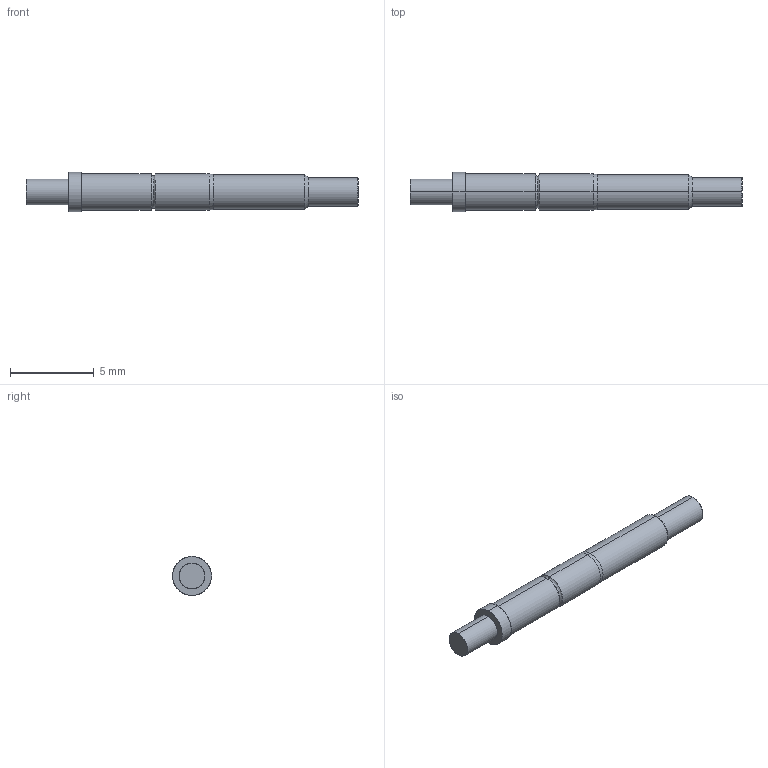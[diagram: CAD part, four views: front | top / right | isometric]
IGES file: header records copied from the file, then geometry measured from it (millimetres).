
Start section: SolidWorks IGES file using analytic representation for surfaces
Global section: file name: O:\PYLON\IGES FILES\G-S\G-S-F.IGS; native system: SolidWorks 2015; preprocessor: SolidWorks 2015; author: kgolden; date: 171024.094504; units: inch
Bounding box: 19.81 x 2.34 x 2.34 mm (x, y, z)
Surface area: 145.4 mm2 (no closed solid volume)
Topology: 0 solids, 0 shells, 27 faces, 264 edges, 264 vertices
Faces by surface type: revolution 18, bspline 9
